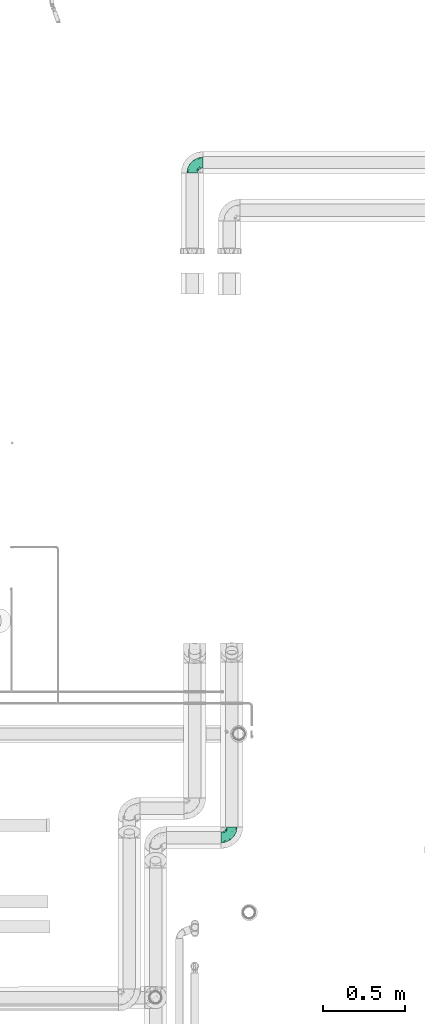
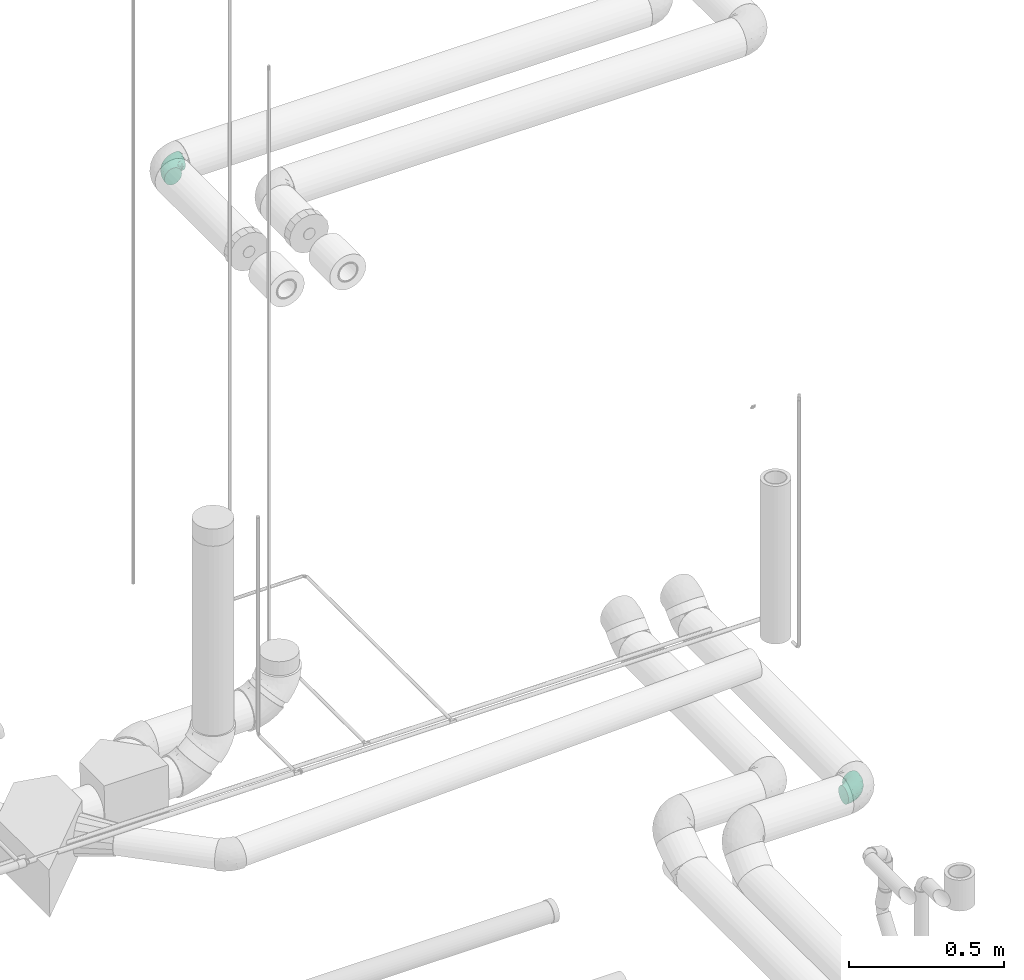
# One storey, part 138 of 156: 2 flow fittings.
"""IFC2X3 building model written with IfcOpenShell, lengths in millimetres."""

import ifcopenshell
import ifcopenshell.guid

model = None  # the IFC model being written
_history = None  # IfcOwnerHistory: only IFC2X3 demands one
_inside = {}  # id of a spatial element -> (the spatial element, [elements in it])
_under = {}  # id of a project, library or spatial element -> (it, [spatial elements below it])
_declared = {}  # id of a project -> (the project, [libraries it declares])
_typed = {}  # id of a type object -> (the type object, [elements of that type])
_made_of = {}  # id of a material, layer set ... -> (it, [elements and type objects made of it])


def new_model(schema):
    """Start an empty IFC model of exactly this schema.

    Asked for "IFC4X3", IfcOpenShell would pick the latest addendum, in which some entities
    have other attributes; the version numbers below select the first issue.
    IFC2X3 requires an IfcOwnerHistory on every rooted entity: one is made here for all.
    """
    global model, _history
    if schema == "IFC4X3":
        model = ifcopenshell.file(schema_version=(4, 3, 0, 0))
    else:
        model = ifcopenshell.file(schema=schema)
    _inside.clear()
    _under.clear()
    _declared.clear()
    _typed.clear()
    _made_of.clear()
    _history = None
    if model.schema == "IFC2X3":
        org = make("IfcOrganization", Name="unknown")
        user = make(
            "IfcPersonAndOrganization",
            ThePerson=make("IfcPerson", FamilyName="unknown"),
            TheOrganization=org,
        )
        app = make(
            "IfcApplication",
            ApplicationDeveloper=org,
            Version="unknown",
            ApplicationFullName="unknown",
            ApplicationIdentifier="unknown",
        )
        _history = make(
            "IfcOwnerHistory",
            OwningUser=user,
            OwningApplication=app,
            ChangeAction="ADDED",
            CreationDate=0,
        )
    return model


def make(cls, **values):
    """One entity of the class cls with the attributes given. An attribute that is None is left unset."""
    return model.create_entity(
        cls, **{name: value for name, value in values.items() if value is not None}
    )


def entity(cls, *values):
    """Any entity or typed value of the class cls, its attributes in the order of the schema. None: left unset."""
    e = model.create_entity(cls)
    for i, value in enumerate(values):
        if value is not None:
            e[i] = value
    return e


def rooted(cls, **values):
    """An entity with a GlobalId (a new one), such as an element, a storey or a relation."""
    return make(cls, GlobalId=ifcopenshell.guid.new(), OwnerHistory=_history, **values)


def si_unit(unit_type, name, prefix=None):
    """IfcSIUnit, for example si_unit("LENGTHUNIT", "METRE", prefix="MILLI")."""
    return make("IfcSIUnit", UnitType=unit_type, Prefix=prefix, Name=name)


def converted_unit(unit_type, name, factor, base, dimensions=None, offset=None):
    """IfcConversionBasedUnit, such as the inch: factor (a typed value) times the base unit."""
    return make(
        "IfcConversionBasedUnit"
        if offset is None
        else "IfcConversionBasedUnitWithOffset",
        ConversionOffset=offset,
        Dimensions=None
        if dimensions is None
        else entity("IfcDimensionalExponents", *dimensions),
        UnitType=unit_type,
        Name=name,
        ConversionFactor=make(
            "IfcMeasureWithUnit", ValueComponent=factor, UnitComponent=base
        ),
    )


def derived_unit(unit_type, elements):
    """IfcDerivedUnit: a product of units, each with its exponent."""
    return make(
        "IfcDerivedUnit",
        Elements=[
            make("IfcDerivedUnitElement", Unit=unit, Exponent=power)
            for unit, power in elements
        ],
        UnitType=unit_type,
    )


def assignment(units):
    """IfcUnitAssignment: the units of a project."""
    return None if units is None else make("IfcUnitAssignment", Units=units)


def point(xyz):
    """IfcCartesianPoint."""
    return None if xyz is None else make("IfcCartesianPoint", Coordinates=xyz)


def direction(xyz):
    """IfcDirection."""
    return None if xyz is None else make("IfcDirection", DirectionRatios=xyz)


def frame(location, z_axis=None, x_axis=None):
    """IfcAxis2Placement3D, a coordinate frame: its origin and axes. An axis left out is left unset."""
    return make(
        "IfcAxis2Placement3D",
        Location=point(location),
        Axis=direction(z_axis),
        RefDirection=direction(x_axis),
    )


def origin_with_axes():
    """The frame at (0, 0, 0) with the z axis (0, 0, 1) and the x axis (1, 0, 0) written out."""
    return frame((0.0, 0.0, 0.0), z_axis=(0.0, 0.0, 1.0), x_axis=(1.0, 0.0, 0.0))


def place(relative_to, where):
    """IfcLocalPlacement: puts the frame where relative to a parent placement (None: the world)."""
    return make(
        "IfcLocalPlacement", PlacementRelTo=relative_to, RelativePlacement=where
    )


def context(
    kind, dimensions, precision=None, world=None, true_north=None, identifier=None
):
    """IfcGeometricRepresentationContext, for example the 3D "Model" context."""
    return make(
        "IfcGeometricRepresentationContext",
        ContextIdentifier=identifier,
        ContextType=kind,
        CoordinateSpaceDimension=dimensions,
        Precision=precision,
        WorldCoordinateSystem=world,
        TrueNorth=true_north,
    )


def subcontext(parent, identifier, kind, view, scale=None):
    """IfcGeometricRepresentationSubContext, for example "Body" below "Model"."""
    return make(
        "IfcGeometricRepresentationSubContext",
        ContextIdentifier=identifier,
        ContextType=kind,
        ParentContext=parent,
        TargetScale=scale,
        TargetView=view,
    )


def project(units=None, contexts=None):
    """IfcProject with its units and contexts."""
    return rooted(
        "IfcProject",
        Name="project",
        RepresentationContexts=contexts,
        UnitsInContext=assignment(units),
    )


def spatial(cls, under=None, at=None, **own):
    """A site, building, storey or space (cls), placed at a placement, below another one or the project."""
    s = rooted(cls, ObjectPlacement=at, **own)
    if under is not None:
        _under.setdefault(under.id(), (under, []))[1].append(s)
    return s


def faces_of(points, faces, orient=None, outer=None):
    """IfcFace entities. A face is a list of loops; a loop is a list of indices into points, from 0.

    orient and outer hold one flag for each loop. By default every Orientation is true, the
    first loop of a face is its IfcFaceOuterBound and the others are IfcFaceBound.
    """
    made = []
    for i, loops in enumerate(faces):
        bounds = []
        for j, loop in enumerate(loops):
            is_outer = j == 0 if outer is None else outer[i][j]
            bounds.append(
                make(
                    "IfcFaceOuterBound" if is_outer else "IfcFaceBound",
                    Bound=make("IfcPolyLoop", Polygon=[points[k] for k in loop]),
                    Orientation=True if orient is None else orient[i][j],
                )
            )
        made.append(make("IfcFace", Bounds=bounds))
    return made


def open_shell(faces, orient=None, outer=None):
    """The faces of one IfcOpenShell. surface_model builds it on its shared points."""
    return ("IfcOpenShell", faces, orient, outer)


def surface_model(cls, points, shells):
    """IfcFaceBasedSurfaceModel or IfcShellBasedSurfaceModel (cls): surfaces that need not close."""
    shared = [point(p) for p in points]
    made = [make(c, CfsFaces=faces_of(shared, fs, o, b)) for c, fs, o, b in shells]
    if cls == "IfcFaceBasedSurfaceModel":
        return make(cls, FbsmFaces=made)
    return make(cls, SbsmBoundary=made)


def shape(context_of_items, identifier, shape_type, items):
    """IfcShapeRepresentation: the items that make up one representation, for example the "Body"."""
    return make(
        "IfcShapeRepresentation",
        ContextOfItems=context_of_items,
        RepresentationIdentifier=identifier,
        RepresentationType=shape_type,
        Items=items,
    )


def source(mapping_origin, context_of_items, identifier, shape_type, items):
    """IfcRepresentationMap: a shape defined once, which mapped items show again and again."""
    return make(
        "IfcRepresentationMap",
        MappingOrigin=mapping_origin,
        MappedRepresentation=shape(context_of_items, identifier, shape_type, items),
    )


def transform(
    local_origin,
    x_axis=None,
    y_axis=None,
    z_axis=None,
    scale=None,
    scale2=None,
    scale3=None,
    uniform=True,
):
    """IfcCartesianTransformationOperator3D, or its non-uniform kind. x_axis, y_axis, z_axis: its Axis1, 2, 3."""
    if uniform:
        return make(
            "IfcCartesianTransformationOperator3D",
            Axis1=direction(x_axis),
            Axis2=direction(y_axis),
            LocalOrigin=point(local_origin),
            Scale=scale,
            Axis3=direction(z_axis),
        )
    return make(
        "IfcCartesianTransformationOperator3DnonUniform",
        Axis1=direction(x_axis),
        Axis2=direction(y_axis),
        LocalOrigin=point(local_origin),
        Scale=scale,
        Axis3=direction(z_axis),
        Scale2=scale2,
        Scale3=scale3,
    )


def mapped(mapping_source, mapping_target):
    """IfcMappedItem: shows the shape of a source again, moved by a transform."""
    return make(
        "IfcMappedItem", MappingSource=mapping_source, MappingTarget=mapping_target
    )


def made_of(thing, what):
    """Note that an element or type object is made of a material, layer set ...; save() writes the relation."""
    if what is not None:
        _made_of.setdefault(what.id(), (what, []))[1].append(thing)
    return thing


def type_object(cls, material=None, **own):
    """A type object (cls), such as IfcWallType, which elements share."""
    return made_of(rooted(cls, **own), material)


def element(
    cls,
    number,
    at=None,
    inside=None,
    cuts=None,
    type_object=None,
    material=None,
    context=None,
    identifier="Body",
    shape_type=None,
    held_by="IfcProductDefinitionShape",
    body=None,
    shapes=None,
    **own,
):
    """One element of the class cls, such as IfcWall. Its Tag is "e" and its number.

    at: its placement. inside: the storey or other place that contains it. cuts: it is an
    opening in that element (IfcRelVoidsElement). A single representation is given by context,
    identifier, shape_type and body (its items); several are given by shapes. held_by: the class
    of the entity that holds the representations. save() writes the other relations.
    """
    e = rooted(cls, Tag="e%d" % number, ObjectPlacement=at, **own)
    if body is not None:
        shapes = [shape(context, identifier, shape_type, body)]
    if shapes is not None:
        e.Representation = make(held_by, Representations=shapes)
    if inside is not None:
        _inside.setdefault(inside.id(), (inside, []))[1].append(e)
    if cuts is not None:
        rooted(
            "IfcRelVoidsElement", RelatingBuildingElement=cuts, RelatedOpeningElement=e
        )
    if type_object is not None:
        _typed.setdefault(type_object.id(), (type_object, []))[1].append(e)
    return made_of(e, material)


def aggregate(whole, parts):
    """IfcRelAggregates: a whole, such as a stair, and the parts it consists of."""
    return rooted("IfcRelAggregates", RelatingObject=whole, RelatedObjects=parts)


def save(model, path):
    """Write the relations noted so far, then the file.

    IfcRelAggregates (storeys below a building ...), IfcRelContainedInSpatialStructure (elements
    in a storey), IfcRelDefinesByType, IfcRelAssociatesMaterial and IfcRelDeclares: one each for
    every whole, place, type object, material and project.
    """
    for whole, parts in _under.values():
        aggregate(whole, parts)
    for where, things in _inside.values():
        rooted(
            "IfcRelContainedInSpatialStructure",
            RelatedElements=things,
            RelatingStructure=where,
        )
    for kind, things in _typed.values():
        rooted("IfcRelDefinesByType", RelatedObjects=things, RelatingType=kind)
    for what, things in _made_of.values():
        rooted("IfcRelAssociatesMaterial", RelatedObjects=things, RelatingMaterial=what)
    for by, libraries in _declared.values():
        rooted("IfcRelDeclares", RelatingContext=by, RelatedDefinitions=libraries)
    model.write(path)


model = new_model("IFC2X3")

# Units and contexts
model_context = context("Model", 3, precision=0.01, world=frame((0.0, 4.29681676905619e-09, 0.0)), true_north=direction((4.01073788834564e-13, 1.0)))
plan_context = context("Plan", 3, precision=0.01, world=frame((0.0, 4.29681676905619e-09, 0.0)), true_north=direction((4.01073788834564e-13, 1.0)))
body_context = subcontext(model_context, "Body", "Model", "MODEL_VIEW")
ifc_project = project(units=[converted_unit("PLANEANGLEUNIT", "DEGREE", entity("IfcPositiveLengthMeasure", 0.0174532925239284), si_unit("PLANEANGLEUNIT", "RADIAN"), dimensions=[0, 0, 0, 0, 0, 0, 0]), si_unit("AREAUNIT", "SQUARE_METRE"), si_unit("LENGTHUNIT", "METRE", prefix="MILLI"), si_unit("MASSUNIT", "GRAM", prefix="KILO"), si_unit("POWERUNIT", "WATT"), si_unit("PRESSUREUNIT", "PASCAL", prefix="KILO"), si_unit("FORCEUNIT", "NEWTON", prefix="KILO"), si_unit("ELECTRICVOLTAGEUNIT", "VOLT"), si_unit("ELECTRICCURRENTUNIT", "AMPERE"), si_unit("THERMODYNAMICTEMPERATUREUNIT", "DEGREE_CELSIUS"), si_unit("TIMEUNIT", "SECOND"), si_unit("VOLUMEUNIT", "CUBIC_METRE"), derived_unit("LINEARVELOCITYUNIT", [(si_unit("LENGTHUNIT", "METRE"), 1), (si_unit("TIMEUNIT", "SECOND"), -1)]), derived_unit("VOLUMETRICFLOWRATEUNIT", [(si_unit("VOLUMEUNIT", "CUBIC_METRE"), 1), (si_unit("TIMEUNIT", "SECOND"), -1)]), derived_unit("THERMALTRANSMITTANCEUNIT", [(si_unit("POWERUNIT", "WATT"), 1), (si_unit("THERMODYNAMICTEMPERATUREUNIT", "KELVIN"), -1), (si_unit("AREAUNIT", "SQUARE_METRE"), -1)]), derived_unit("SOUNDPRESSUREUNIT", [(si_unit("PRESSUREUNIT", "PASCAL"), 1)])], contexts=[model_context, plan_context])

# Site, building, storey
site_placement = place(None, frame((0.0, -4.29681676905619e-09, 0.0), z_axis=(0.0, 0.0, 1.0), x_axis=(1.0, 0.0, 0.0)))
site = spatial("IfcSite", under=ifc_project, at=site_placement, CompositionType="ELEMENT")
building_placement = place(site_placement, frame((0.0, 4.29681676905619e-09, 0.0), z_axis=(0.0, 0.0, 1.0), x_axis=(1.0, 0.0, 0.0)))
building = spatial("IfcBuilding", under=site, at=building_placement, Name="mc-building", CompositionType="ELEMENT")
storey_placement = place(building_placement, frame((0.0, 0.0, 205200.0), z_axis=(0.0, 0.0, 1.0), x_axis=(1.0, 0.0, 0.0)))
storey = spatial("IfcBuildingStorey", under=building, at=storey_placement, Name="Nivå D + 1,2 m", CompositionType="ELEMENT", Elevation=205200.0)

# Flow fittings
pipe_fitting_type = type_object("IfcPipeFittingType", Name="magi_pipe_elbow_short_001", PredefinedType="BEND")
shared_shape_1 = source(origin_with_axes(), body_context, "Body", "SurfaceModel", [
    surface_model("IfcShellBasedSurfaceModel", [(-64.99236, 16.25, -28.14582), (-64.99236, 8.41162, -31.39259), (-64.99236, 0.0, -32.5), (-64.99236, -22.98097, -22.98097), (-64.99236, 31.39259, -8.41162), (-64.99236, 28.14582, -16.25), (-64.99236, 22.98097, -22.98097), (-64.99236, -32.5, 0.0), (-64.99236, -31.39259, 8.41162), (-64.99236, -16.25, -28.14582), (-64.99236, -8.41162, -31.39259), (-64.99236, -31.39259, -8.41162), (-64.99236, -28.14582, -16.25), (-64.99236, -22.98097, 22.98097), (-64.99236, 31.39259, 8.41162), (-64.99236, 28.14582, 16.25), (-64.99236, 16.25, 28.14582), (-64.99236, 22.98097, 22.98097), (-64.99236, 0.0, 32.5), (-64.99236, 8.41162, 31.39259), (-64.99236, -28.14582, 16.25), (-64.99236, -8.41162, 31.39259), (-64.99236, -16.25, 28.14582), (-64.99236, 32.5, 0.0), (0.00764, 64.99235, -32.5), (-8.40398, 64.99334, -31.39259), (-16.24236, 64.99427, -28.14582), (22.98861, 64.98965, -22.98097), (-22.97333, 64.99506, -22.98097), (-28.13818, 64.99566, -16.25), (-31.38495, 64.99605, -8.41162), (32.50764, 64.98853, 0.0), (8.41926, 64.99137, -31.39259), (16.25764, 64.99045, -28.14582), (31.40023, 64.98867, -8.41162), (28.15347, 64.98905, -16.25), (-31.38495, 64.99605, 8.41162), (22.98861, 64.98965, 22.98097), (-16.24236, 64.99427, 28.14582), (-28.13818, 64.99566, 16.25), (-22.97333, 64.99506, 22.98097), (-8.40398, 64.99334, 31.39259), (0.00764, 64.99235, 32.5), (31.40023, 64.98867, 8.41162), (28.15347, 64.98905, 16.25), (16.25764, 64.99045, 28.14582), (8.41926, 64.99137, 31.39259), (-32.49236, 64.99618, 0.0), (-43.89955, -28.50355, 10.21446), (-47.6585, -25.24703, 18.24341), (-34.86538, -27.72872, 0.0), (-49.0083, -29.96857, 0.0), (-8.31843, -11.22716, 12.53135), (-2.25959, -8.68638, 6.834), (1.88186, -1.88208, 13.46383), (-49.64326, -4.30538, 31.94422), (-45.50388, 4.98178, 32.44459), (11.10666, 7.93208, 12.2081), (19.84846, 26.43538, 16.1656), (7.61465, 11.7849, 20.7423), (-32.35149, -0.29224, 31.50086), (-47.53409, -12.26208, 29.22887), (-25.23377, -7.6766, 27.1652), (-41.68248, -18.56637, 24.14343), (-29.11432, -24.9108, 6.68577), (-21.27619, -20.80529, 0.0), (-11.7858, -7.61327, 20.7423), (-5.80189, 5.80257, 26.57213), (-31.76287, 51.868, 14.1255), (-27.14349, 50.59483, 21.35127), (-12.12509, 56.0552, 30.44198), (-4.44859, 48.60892, 32.42016), (-50.09163, 12.74643, 30.70085), (-8.47944, 21.76257, 31.91164), (-16.14338, 5.96184, 30.34894), (-3.31499, 17.55572, 29.86712), (-56.22293, 19.6814, 26.48163), (-11.2914, 31.957, 32.4416), (-24.06856, 24.07139, 31.71014), (-19.34861, 14.20045, 32.33273), (-51.37697, 34.61598, 7.14514), (-51.88042, 31.76371, 14.12334), (-40.34691, 40.35165, 12.14859), (-50.79813, 27.09264, 21.32854), (18.57127, 41.6803, 24.14343), (-33.69894, 43.07982, 18.3952), (12.26767, 47.53264, 29.22887), (25.25263, 47.65553, 18.24341), (28.50871, 43.8962, 10.21446), (-7.687, -13.88185, 0.0), (-15.77703, -17.8791, 8.42009), (4.31122, 49.64276, 31.94422), (-35.7076, 13.92038, 31.91837), (-31.8861, 7.96355, 32.48616), (20.80779, 21.27375, 0.0), (24.91422, 29.11139, 6.68577), (17.88096, 15.77493, 8.42009), (29.97433, 49.00478, 0.0), (-34.54668, 22.05033, 30.06046), (-26.43772, -19.84535, 16.1656), (-23.55724, 42.00226, 27.3152), (-19.8488, 54.49231, 26.61652), (-34.20409, 52.42659, 6.97231), (-40.72649, 42.62491, 5.71948), (14.97648, 26.17148, 22.02693), (7.67956, 25.23287, 27.1652), (-36.84781, 48.74779, 0.0), (-30.08241, 34.31724, 26.70502), (-44.74852, 22.06099, 27.36809), (-0.49151, 0.49157, 19.19861), (-18.5415, 33.64021, 31.24212), (-25.88792, 31.46182, 29.57109), (-14.05015, 44.03414, 30.95158), (-34.25375, 36.29281, 23.02093), (-41.7348, 34.92131, 18.12224), (0.29605, 32.35145, 31.50086), (-26.05163, -14.24497, 22.66178), (8.8662, 2.35566, 6.48067), (27.73282, 34.86212, 0.0), (13.88276, 7.68537, 0.0), (-48.74346, 36.85354, 0.0), (3.09788, -3.09824, 0.0), (-47.9193, 27.98928, -21.64754), (-51.85171, 31.77305, -14.12718), (-26.54684, -8.20436, -27.26653), (-28.21584, -0.40658, -30.91134), (-13.05633, -0.54632, -26.63159), (-51.44351, 4.10941, -32.3942), (-47.40518, -29.09488, -10.59543), (-40.82854, -24.10138, -17.60337), (-31.00415, -24.37146, -10.90407), (-47.27743, 13.26675, -30.81873), (-35.79823, 7.68242, -32.49297), (-27.98364, 47.92259, -21.64754), (-52.60833, 34.10171, -7.1118), (-20.39289, 51.01724, -26.88537), (-13.26119, 47.27899, -30.81873), (-41.34819, 41.35305, -7.7594), (19.4222, 47.0094, -24.5381), (11.22092, 41.14985, -28.90486), (12.81889, 54.88047, -29.57876), (-6.33074, -11.43746, -8.55858), (-6.41511, -8.42749, -14.80847), (3.49494, -2.768, -8.5749), (-18.9594, 17.57163, -32.48157), (-30.80322, 19.22998, -31.53263), (-51.01485, 20.39889, -26.88537), (-54.7096, -25.87179, -18.8827), (-31.613, 36.91699, -24.47878), (-30.03154, 30.03507, -28.53578), (-39.7181, 27.45244, -25.81944), (2.84502, -0.59397, -13.92955), (-47.01169, -19.41667, -24.5381), (24.10618, 40.8257, -17.60337), (29.10045, 47.40176, -10.59543), (24.37511, 31.00129, -10.90407), (-54.88197, -12.81243, -29.57876), (4.10339, 47.87508, -31.9058), (-20.54826, -15.82441, -17.72956), (-24.26015, -13.258, -22.73561), (-11.77797, -8.036, -20.31778), (-35.46225, -14.84085, -25.5178), (-41.15118, -11.21609, -28.90486), (-47.87556, -4.09776, -31.9058), (-24.349, 39.97958, -27.53011), (-34.09552, 52.61234, -7.1118), (-4.10336, 51.44399, -32.3942), (-11.46945, 11.4708, -30.68906), (0.4099, 28.21579, -30.91134), (1.37106, 15.26107, -27.10384), (-31.76696, 51.85545, -14.12718), (-39.0276, 39.03218, -16.01867), (25.87823, 54.70656, -18.8827), (18.83805, 26.10245, -17.45454), (10.47978, 12.31452, -18.02661), (13.26085, 24.25859, -22.73561), (6.72086, 27.73878, -28.39212), (-7.67821, 35.79913, -32.49297), (-39.5058, 20.91562, -29.29241), (-19.37525, 31.62512, -31.37489), (-0.30464, 0.30467, -18.8323), (-15.04965, -18.17285, -5.59118), (16.66709, 16.13802, -12.10451), (18.17462, 15.04752, -5.59118), (3.83323, 9.90276, -22.79776), (-16.13998, -16.66519, -12.10451)], [open_shell([[[0, 1, 2]], [[0, 2, 3]], [[4, 5, 6]], [[6, 0, 7]], [[6, 7, 8]], [[9, 3, 10]], [[3, 2, 10]], [[11, 7, 12]], [[3, 12, 7]], [[3, 7, 0]], [[8, 4, 6]], [[13, 14, 4]], [[15, 14, 16]], [[13, 16, 14]], [[17, 15, 16]], [[16, 18, 19]], [[20, 13, 8]], [[8, 13, 4]], [[21, 18, 22]], [[16, 13, 22]], [[16, 22, 18]], [[23, 4, 14]], [[24, 25, 26]], [[27, 24, 26]], [[28, 29, 30]], [[27, 26, 28]], [[31, 28, 30]], [[32, 27, 33]], [[32, 24, 27]], [[27, 34, 35]], [[34, 27, 31]], [[28, 31, 27]], [[30, 36, 31]], [[37, 31, 36]], [[38, 36, 39]], [[36, 38, 37]], [[38, 39, 40]], [[41, 42, 38]], [[43, 37, 44]], [[31, 37, 43]], [[45, 42, 46]], [[42, 45, 37]], [[38, 42, 37]], [[30, 47, 36]], [[48, 49, 20]], [[50, 48, 51]], [[52, 53, 54]], [[8, 48, 20]], [[8, 51, 48]], [[18, 55, 56]], [[20, 49, 13]], [[57, 58, 59]], [[60, 61, 62]], [[63, 22, 13]], [[63, 61, 22]], [[64, 50, 65]], [[62, 66, 67]], [[39, 68, 69]], [[41, 70, 71]], [[19, 72, 16]], [[73, 74, 75]], [[16, 76, 17]], [[21, 55, 18]], [[77, 78, 79]], [[80, 81, 82]], [[15, 83, 81]], [[84, 37, 45]], [[23, 14, 80]], [[14, 15, 81]], [[68, 85, 69]], [[83, 15, 17]], [[18, 56, 19]], [[45, 86, 84]], [[17, 76, 83]], [[87, 58, 88]], [[39, 36, 68]], [[89, 90, 65]], [[42, 91, 46]], [[65, 90, 64]], [[42, 41, 71]], [[92, 93, 79]], [[88, 43, 44]], [[44, 37, 87]], [[87, 88, 44]], [[94, 95, 96]], [[88, 97, 43]], [[98, 72, 92]], [[49, 99, 63]], [[69, 100, 101]], [[82, 102, 103]], [[104, 105, 59]], [[106, 102, 47]], [[98, 107, 108]], [[102, 82, 68]], [[86, 45, 46]], [[69, 40, 39]], [[109, 54, 57]], [[110, 100, 111]], [[22, 61, 21]], [[101, 38, 40]], [[70, 41, 38]], [[112, 77, 71]], [[84, 86, 105]], [[96, 95, 58]], [[100, 69, 113]], [[72, 19, 56]], [[108, 113, 83]], [[81, 114, 82]], [[112, 110, 77]], [[91, 71, 115]], [[62, 61, 63]], [[55, 61, 60]], [[116, 99, 66]], [[74, 62, 67]], [[91, 86, 46]], [[105, 86, 115]], [[75, 105, 115]], [[109, 67, 66]], [[59, 105, 67]], [[48, 64, 99]], [[99, 49, 48]], [[63, 13, 49]], [[37, 84, 87]], [[58, 87, 84]], [[92, 72, 56]], [[76, 72, 108]], [[102, 68, 36]], [[82, 114, 85]], [[98, 111, 107]], [[112, 70, 101]], [[114, 83, 113]], [[82, 103, 80]], [[92, 79, 78]], [[115, 71, 77]], [[74, 79, 60]], [[77, 79, 73]], [[71, 91, 42]], [[86, 91, 115]], [[61, 55, 21]], [[56, 55, 60]], [[57, 54, 117]], [[104, 59, 58]], [[116, 66, 62]], [[52, 99, 90]], [[8, 7, 51]], [[97, 88, 118]], [[97, 31, 43]], [[53, 90, 89]], [[90, 53, 52]], [[94, 96, 119]], [[88, 95, 118]], [[117, 54, 53]], [[92, 56, 93]], [[98, 92, 78]], [[111, 98, 78]], [[72, 98, 108]], [[110, 111, 78]], [[107, 111, 100]], [[47, 102, 36]], [[102, 106, 103]], [[106, 120, 103]], [[103, 120, 80]], [[23, 80, 120]], [[14, 81, 80]], [[56, 60, 93]], [[60, 79, 93]], [[117, 121, 119]], [[121, 117, 53]], [[53, 89, 121]], [[119, 96, 117]], [[117, 96, 57]], [[77, 110, 78]], [[100, 110, 112]], [[83, 114, 81]], [[85, 114, 113]], [[69, 85, 113]], [[82, 85, 68]], [[109, 52, 54]], [[99, 52, 66]], [[69, 101, 40]], [[112, 101, 100]], [[100, 113, 107]], [[108, 107, 113]], [[62, 74, 60]], [[75, 74, 67]], [[105, 75, 67]], [[73, 75, 115]], [[77, 73, 115]], [[74, 73, 79]], [[99, 64, 90]], [[50, 64, 48]], [[118, 95, 94]], [[58, 95, 88]], [[58, 57, 96]], [[109, 57, 59]], [[72, 76, 16]], [[83, 76, 108]], [[101, 70, 38]], [[71, 70, 112]], [[58, 84, 104]], [[105, 104, 84]], [[67, 109, 59]], [[52, 109, 66]], [[62, 63, 116]], [[99, 116, 63]], [[122, 5, 123]], [[124, 125, 126]], [[2, 1, 127]], [[128, 129, 130]], [[127, 131, 132]], [[29, 28, 133]], [[120, 134, 23]], [[135, 26, 136]], [[123, 134, 137]], [[138, 139, 140]], [[122, 6, 5]], [[141, 142, 143]], [[144, 132, 145]], [[131, 0, 146]], [[128, 12, 147]], [[148, 149, 150]], [[128, 51, 11]], [[142, 151, 143]], [[152, 3, 9]], [[153, 154, 155]], [[156, 152, 9]], [[32, 157, 24]], [[158, 159, 160]], [[147, 12, 3]], [[129, 152, 161]], [[156, 9, 10]], [[162, 163, 125]], [[154, 35, 34]], [[120, 106, 137]], [[149, 148, 164]], [[47, 30, 165]], [[163, 10, 2]], [[5, 4, 123]], [[25, 166, 136]], [[167, 168, 169]], [[170, 133, 171]], [[25, 24, 166]], [[33, 27, 138]], [[157, 32, 140]], [[30, 29, 170]], [[27, 35, 172]], [[26, 135, 28]], [[132, 131, 145]], [[32, 33, 140]], [[173, 174, 175]], [[169, 168, 176]], [[25, 136, 26]], [[175, 138, 173]], [[168, 177, 157]], [[163, 162, 156]], [[153, 172, 154]], [[12, 128, 11]], [[154, 97, 118]], [[131, 178, 145]], [[0, 6, 146]], [[175, 139, 138]], [[155, 118, 94]], [[131, 1, 0]], [[146, 178, 131]], [[170, 137, 165]], [[149, 179, 145]], [[171, 133, 148]], [[160, 180, 142]], [[65, 181, 89]], [[170, 165, 30]], [[137, 171, 123]], [[172, 138, 27]], [[138, 153, 173]], [[168, 157, 139]], [[166, 157, 177]], [[176, 175, 169]], [[168, 167, 144]], [[154, 34, 97]], [[155, 182, 173]], [[162, 124, 161]], [[147, 152, 129]], [[127, 163, 2]], [[132, 144, 125]], [[132, 125, 163]], [[125, 167, 126]], [[129, 158, 130]], [[34, 31, 97]], [[143, 182, 183]], [[169, 126, 167]], [[6, 122, 146]], [[178, 150, 149]], [[136, 179, 164]], [[133, 28, 135]], [[123, 4, 134]], [[122, 123, 171]], [[133, 170, 29]], [[137, 170, 171]], [[184, 175, 174]], [[180, 160, 126]], [[126, 169, 184]], [[126, 159, 124]], [[51, 128, 50]], [[51, 7, 11]], [[131, 127, 1]], [[163, 127, 132]], [[157, 166, 24]], [[136, 166, 177]], [[164, 179, 149]], [[144, 167, 125]], [[179, 144, 145]], [[168, 144, 177]], [[136, 177, 179]], [[144, 179, 177]], [[141, 121, 89]], [[89, 181, 141]], [[154, 118, 155]], [[183, 155, 94]], [[143, 183, 119]], [[119, 183, 94]], [[155, 183, 182]], [[181, 130, 185]], [[50, 128, 130]], [[130, 181, 65]], [[50, 130, 65]], [[141, 181, 185]], [[142, 141, 185]], [[143, 121, 141]], [[158, 160, 142]], [[142, 180, 151]], [[158, 142, 185]], [[126, 160, 159]], [[130, 158, 185]], [[129, 159, 158]], [[23, 134, 4]], [[120, 137, 134]], [[137, 106, 165]], [[47, 165, 106]], [[174, 151, 180]], [[182, 143, 151]], [[150, 146, 122]], [[149, 145, 178]], [[146, 150, 178]], [[122, 171, 148]], [[148, 150, 122]], [[164, 133, 135]], [[133, 164, 148]], [[164, 135, 136]], [[138, 140, 33]], [[157, 140, 139]], [[154, 172, 35]], [[138, 172, 153]], [[163, 156, 10]], [[152, 156, 162]], [[152, 147, 3]], [[128, 147, 129]], [[155, 173, 153]], [[174, 173, 182]], [[151, 174, 182]], [[174, 180, 184]], [[126, 184, 180]], [[175, 184, 169]], [[168, 139, 176]], [[175, 176, 139]], [[161, 124, 159]], [[125, 124, 162]], [[129, 161, 159]], [[162, 161, 152]], [[143, 119, 121]]])]),
])
flow_fitting_1_placement = place(storey_placement, frame((330320.24229, 461498.85076, 4172.95997999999), z_axis=(0.0, 0.0, 1.0), x_axis=(1.0, 0.0, 0.0)))
element("IfcFlowFitting", 1, at=flow_fitting_1_placement, inside=storey, type_object=pipe_fitting_type, Name="magi_pipe_elbow_short_001", context=body_context, shape_type="MappedRepresentation", body=[
    mapped(shared_shape_1, transform((0.0, 0.0, 0.0), scale=1.0)),
])
shared_shape_2 = source(origin_with_axes(), body_context, "Body", "SurfaceModel", [
    surface_model("IfcShellBasedSurfaceModel", [(-64.99978, 16.25, -28.14582), (-64.99978, 8.41162, -31.39259), (-64.99978, 0.0, -32.5), (-64.99978, -22.98097, -22.98097), (-64.99978, 31.39259, -8.41162), (-64.99978, 28.14582, -16.25), (-64.99978, 22.98097, -22.98097), (-64.99978, -32.5, 0.0), (-64.99978, -31.39259, 8.41162), (-64.99978, -16.25, -28.14582), (-64.99978, -8.41162, -31.39259), (-64.99978, -31.39259, -8.41162), (-64.99978, -28.14582, -16.25), (-64.99978, -22.98097, 22.98097), (-64.99978, 31.39259, 8.41162), (-64.99978, 28.14582, 16.25), (-64.99978, 16.25, 28.14582), (-64.99978, 22.98097, 22.98097), (-64.99978, 0.0, 32.5), (-64.99978, 8.41162, 31.39259), (-64.99978, -28.14582, 16.25), (-64.99978, -8.41162, 31.39259), (-64.99978, -16.25, 28.14582), (-64.99978, 32.5, 0.0), (0.00022, 64.99978, -32.5), (-8.4114, 64.99981, -31.39259), (-16.24978, 64.99984, -28.14582), (-22.98075, 64.99986, -22.98097), (-28.14561, 64.99988, -16.25), (-31.39237, 64.99989, -8.41162), (32.50022, 64.99968, 0.0), (31.39281, 64.99968, 8.41162), (8.41184, 64.99975, -31.39259), (22.98119, 64.99971, -22.98097), (16.25022, 64.99973, -28.14582), (31.39281, 64.99968, -8.41162), (28.14604, 64.99969, -16.25), (-31.39237, 64.99989, 8.41162), (-22.98075, 64.99986, 22.98097), (-28.14561, 64.99988, 16.25), (-16.24978, 64.99984, 28.14582), (22.98119, 64.99971, 22.98097), (-8.4114, 64.99981, 31.39259), (0.00022, 64.99978, 32.5), (28.14604, 64.99969, 16.25), (16.25022, 64.99973, 28.14582), (8.41184, 64.99975, 31.39259), (-32.49978, 64.99989, 0.0), (-43.90681, -28.50357, 10.2143), (-47.66578, -25.24708, 18.24329), (-34.87069, -27.72803, 0.0), (-49.01577, -29.96839, 0.0), (-8.32269, -11.22426, 12.53241), (-2.26201, -8.68189, 6.83484), (1.87747, -1.87748, 13.46626), (-49.64942, -4.30536, 31.94417), (-45.51036, 4.98181, 32.4446), (11.10244, 7.9365, 12.20831), (19.84612, 26.44643, 16.1655), (7.61151, 11.79162, 20.74292), (-32.35664, -0.29167, 31.50073), (-47.54153, -12.26219, 29.22881), (-25.2412, -7.67712, 27.16491), (-41.69043, -18.5666, 24.14336), (-29.11963, -24.90984, 6.68626), (-21.28076, -20.80363, 0.0), (-11.79164, -7.61147, 20.74292), (-5.80533, 5.80535, 26.57152), (-31.76878, 51.87166, 14.12563), (-27.1493, 50.59869, 21.35141), (-12.13148, 56.0602, 30.44206), (-4.4541, 48.61523, 32.42017), (-50.09878, 12.74635, 30.7009), (-8.4833, 21.76751, 31.91167), (-16.14844, 5.96218, 30.34847), (-3.32002, 17.55877, 29.86711), (-56.2291, 19.68144, 26.48178), (-11.29515, 31.96037, 32.44169), (-24.07309, 24.07317, 31.71031), (-19.35205, 14.20218, 32.33259), (-51.38128, 34.61725, 7.14562), (-51.8877, 31.7637, 14.12347), (-40.35287, 40.35301, 12.14876), (-50.80491, 27.09273, 21.3287), (18.56674, 41.69037, 24.14336), (-33.7056, 43.08153, 18.39468), (12.26235, 47.54149, 29.22881), (25.24724, 47.6657, 18.24329), (28.50371, 43.90671, 10.2143), (-7.69083, -13.87923, 0.0), (-15.78135, -17.87712, 8.42052), (4.30553, 49.6494, 31.94417), (-35.71327, 13.92125, 31.91839), (-31.89091, 7.96388, 32.48613), (20.8037, 21.28069, 0.0), (24.90994, 29.11955, 6.68626), (17.87717, 15.78129, 8.42052), (29.96855, 49.01567, 0.0), (-34.55115, 22.05205, 30.06059), (-26.4465, -19.84603, 16.1655), (-23.56221, 42.00631, 27.31532), (-19.855, 54.49708, 26.61661), (-34.2102, 52.42982, 6.97228), (-40.73157, 42.62737, 5.71977), (14.97306, 26.17987, 22.02699), (7.6772, 25.24117, 27.1649), (-36.85399, 48.74994, 0.0), (-30.08659, 34.3204, 26.70527), (-44.75382, 22.06155, 27.36834), (-0.49658, 0.49658, 19.20117), (-18.54574, 33.64294, 31.24244), (-25.89219, 31.46477, 29.57131), (-14.05549, 44.03818, 30.9517), (-34.25822, 36.29556, 23.02121), (-41.74118, 34.92169, 18.12274), (0.29178, 32.35664, 31.50073), (-26.05865, -14.24555, 22.66107), (8.86278, 2.36024, 6.48022), (27.72815, 34.87059, 0.0), (13.87926, 7.69078, 0.0), (-48.74981, 36.85416, 0.0), (3.09422, -3.09423, 0.0), (-47.92582, 27.98948, -21.64776), (-51.85799, 31.77337, -14.12745), (-26.55079, -8.2021, -27.26678), (-28.22102, -0.40544, -30.91131), (-13.05803, -0.54392, -26.63041), (-51.44981, 4.10941, -32.39422), (-47.41232, -29.09488, -10.59528), (-40.83522, -24.10132, -17.60315), (-31.01107, -24.37143, -10.90366), (-47.28406, 13.26677, -30.81881), (-35.80365, 7.6829, -32.49298), (-27.98932, 47.92591, -21.64776), (-52.61498, 34.10209, -7.1115), (-20.39866, 51.02211, -26.88545), (-13.26661, 47.28411, -30.81881), (-41.35423, 41.35436, -7.75963), (19.41689, 47.01875, -24.53799), (11.21623, 41.15781, -28.90474), (12.81267, 54.88894, -29.57871), (-6.33188, -11.43247, -8.55905), (-6.42376, -8.42757, -14.80986), (3.49639, -2.7588, -8.57547), (-18.96424, 17.5736, -32.48155), (-30.8098, 19.23043, -31.53267), (-51.02204, 20.39883, -26.88545), (-54.71661, -25.87182, -18.8826), (-31.61798, 36.91933, -24.47909), (-30.03652, 30.03661, -28.53613), (-39.72323, 27.45379, -25.81956), (2.83449, -0.59725, -13.92945), (-47.01881, -19.41673, -24.53799), (24.10145, 40.83513, -17.60315), (29.09504, 47.41223, -10.59528), (24.37153, 31.01099, -10.90366), (-54.88899, -12.81249, -29.57871), (4.09801, 47.88268, -31.90577), (-20.5462, -15.81918, -17.72957), (-24.26603, -13.25758, -22.73527), (-11.78139, -8.03087, -20.32001), (-35.46877, -14.83971, -25.51839), (-41.15784, -11.21609, -28.90474), (-47.88269, -4.09785, -31.90577), (-24.35346, 39.9826, -27.5307), (-34.10192, 52.61509, -7.1115), (-4.10924, 51.44982, -32.39422), (-11.47317, 11.47321, -30.68874), (0.40553, 28.22101, -30.91131), (1.36827, 15.26644, -27.10352), (-31.7732, 51.8581, -14.12745), (-39.03334, 39.03346, -16.01918), (25.872, 54.71652, -18.8826), (18.83489, 26.11123, -17.45425), (10.47677, 12.32083, -18.0266), (13.25766, 24.26598, -22.73527), (6.71724, 27.74542, -28.39194), (-7.68278, 35.80368, -32.49298), (-39.5127, 20.91579, -29.29246), (-19.37887, 31.6268, -31.37545), (-0.30799, 0.30799, -18.83155), (-15.05371, -18.17091, -5.59076), (16.66512, 16.14677, -12.10402), (18.17096, 15.05365, -5.59076), (3.8289, 9.90604, -22.79738), (-16.14683, -16.66507, -12.10402)], [open_shell([[[0, 1, 2]], [[0, 2, 3]], [[4, 5, 6]], [[6, 0, 7]], [[6, 7, 8]], [[9, 3, 10]], [[3, 2, 10]], [[11, 7, 12]], [[3, 12, 7]], [[3, 7, 0]], [[8, 4, 6]], [[13, 14, 4]], [[15, 14, 16]], [[13, 16, 14]], [[17, 15, 16]], [[16, 18, 19]], [[20, 13, 8]], [[8, 13, 4]], [[21, 18, 22]], [[16, 13, 22]], [[16, 22, 18]], [[23, 4, 14]], [[24, 25, 26]], [[24, 26, 27]], [[27, 28, 29]], [[24, 27, 30]], [[31, 30, 27]], [[32, 33, 34]], [[32, 24, 33]], [[33, 35, 36]], [[24, 35, 33]], [[24, 30, 35]], [[27, 29, 37]], [[31, 27, 37]], [[38, 37, 39]], [[37, 40, 41]], [[40, 37, 38]], [[42, 43, 40]], [[31, 41, 44]], [[31, 37, 41]], [[45, 43, 46]], [[45, 41, 40]], [[43, 45, 40]], [[37, 29, 47]], [[48, 49, 20]], [[50, 48, 51]], [[52, 53, 54]], [[8, 48, 20]], [[8, 51, 48]], [[18, 55, 56]], [[20, 49, 13]], [[57, 58, 59]], [[60, 61, 62]], [[63, 22, 13]], [[63, 61, 22]], [[64, 50, 65]], [[62, 66, 67]], [[39, 68, 69]], [[42, 70, 71]], [[19, 72, 16]], [[73, 74, 75]], [[16, 76, 17]], [[21, 55, 18]], [[77, 78, 79]], [[80, 81, 82]], [[15, 83, 81]], [[84, 41, 45]], [[23, 14, 80]], [[14, 15, 81]], [[68, 85, 69]], [[83, 15, 17]], [[18, 56, 19]], [[45, 86, 84]], [[17, 76, 83]], [[87, 58, 88]], [[39, 37, 68]], [[89, 90, 65]], [[43, 91, 46]], [[65, 90, 64]], [[43, 42, 71]], [[92, 93, 79]], [[88, 31, 44]], [[44, 41, 87]], [[87, 88, 44]], [[94, 95, 96]], [[88, 97, 31]], [[98, 72, 92]], [[49, 99, 63]], [[69, 100, 101]], [[82, 102, 103]], [[104, 105, 59]], [[106, 102, 47]], [[98, 107, 108]], [[102, 82, 68]], [[86, 45, 46]], [[69, 38, 39]], [[109, 54, 57]], [[110, 100, 111]], [[22, 61, 21]], [[101, 40, 38]], [[70, 42, 40]], [[112, 77, 71]], [[84, 86, 105]], [[96, 95, 58]], [[100, 69, 113]], [[72, 19, 56]], [[108, 113, 83]], [[81, 114, 82]], [[112, 110, 77]], [[91, 71, 115]], [[62, 61, 63]], [[55, 61, 60]], [[116, 99, 66]], [[74, 62, 67]], [[91, 86, 46]], [[105, 86, 115]], [[75, 105, 115]], [[109, 67, 66]], [[59, 105, 67]], [[48, 64, 99]], [[99, 49, 48]], [[63, 13, 49]], [[41, 84, 87]], [[58, 87, 84]], [[92, 72, 56]], [[76, 72, 108]], [[102, 68, 37]], [[82, 114, 85]], [[98, 111, 107]], [[112, 70, 101]], [[114, 83, 113]], [[82, 103, 80]], [[92, 79, 78]], [[115, 71, 77]], [[74, 79, 60]], [[77, 79, 73]], [[71, 91, 43]], [[86, 91, 115]], [[61, 55, 21]], [[56, 55, 60]], [[57, 54, 117]], [[104, 59, 58]], [[116, 66, 62]], [[52, 99, 90]], [[8, 7, 51]], [[97, 88, 118]], [[97, 30, 31]], [[53, 90, 89]], [[90, 53, 52]], [[94, 96, 119]], [[88, 95, 118]], [[117, 54, 53]], [[92, 56, 93]], [[98, 92, 78]], [[111, 98, 78]], [[72, 98, 108]], [[110, 111, 78]], [[107, 111, 100]], [[47, 102, 37]], [[102, 106, 103]], [[106, 120, 103]], [[103, 120, 80]], [[23, 80, 120]], [[14, 81, 80]], [[56, 60, 93]], [[60, 79, 93]], [[117, 121, 119]], [[121, 117, 53]], [[53, 89, 121]], [[119, 96, 117]], [[117, 96, 57]], [[77, 110, 78]], [[100, 110, 112]], [[83, 114, 81]], [[85, 114, 113]], [[69, 85, 113]], [[82, 85, 68]], [[109, 52, 54]], [[99, 52, 66]], [[69, 101, 38]], [[112, 101, 100]], [[100, 113, 107]], [[108, 107, 113]], [[62, 74, 60]], [[75, 74, 67]], [[105, 75, 67]], [[73, 75, 115]], [[77, 73, 115]], [[74, 73, 79]], [[99, 64, 90]], [[50, 64, 48]], [[118, 95, 94]], [[58, 95, 88]], [[58, 57, 96]], [[109, 57, 59]], [[72, 76, 16]], [[83, 76, 108]], [[101, 70, 40]], [[71, 70, 112]], [[58, 84, 104]], [[105, 104, 84]], [[67, 109, 59]], [[52, 109, 66]], [[62, 63, 116]], [[99, 116, 63]], [[122, 5, 123]], [[124, 125, 126]], [[2, 1, 127]], [[128, 129, 130]], [[127, 131, 132]], [[28, 27, 133]], [[120, 134, 23]], [[135, 26, 136]], [[123, 134, 137]], [[138, 139, 140]], [[122, 6, 5]], [[141, 142, 143]], [[144, 132, 145]], [[131, 0, 146]], [[128, 12, 147]], [[148, 149, 150]], [[128, 51, 11]], [[142, 151, 143]], [[152, 3, 9]], [[153, 154, 155]], [[156, 152, 9]], [[32, 157, 24]], [[158, 159, 160]], [[147, 12, 3]], [[129, 152, 161]], [[156, 9, 10]], [[162, 163, 125]], [[154, 36, 35]], [[120, 106, 137]], [[149, 148, 164]], [[47, 29, 165]], [[163, 10, 2]], [[5, 4, 123]], [[25, 166, 136]], [[167, 168, 169]], [[170, 133, 171]], [[25, 24, 166]], [[34, 33, 138]], [[157, 32, 140]], [[29, 28, 170]], [[33, 36, 172]], [[26, 135, 27]], [[132, 131, 145]], [[32, 34, 140]], [[173, 174, 175]], [[169, 168, 176]], [[25, 136, 26]], [[175, 138, 173]], [[168, 177, 157]], [[163, 162, 156]], [[153, 172, 154]], [[12, 128, 11]], [[154, 97, 118]], [[131, 178, 145]], [[0, 6, 146]], [[175, 139, 138]], [[155, 118, 94]], [[131, 1, 0]], [[146, 178, 131]], [[170, 137, 165]], [[149, 179, 145]], [[171, 133, 148]], [[160, 180, 142]], [[65, 181, 89]], [[170, 165, 29]], [[137, 171, 123]], [[172, 138, 33]], [[138, 153, 173]], [[168, 157, 139]], [[166, 157, 177]], [[176, 175, 169]], [[168, 167, 144]], [[154, 35, 97]], [[155, 182, 173]], [[162, 124, 161]], [[147, 152, 129]], [[127, 163, 2]], [[132, 144, 125]], [[132, 125, 163]], [[125, 167, 126]], [[129, 158, 130]], [[35, 30, 97]], [[143, 182, 183]], [[169, 126, 167]], [[6, 122, 146]], [[178, 150, 149]], [[136, 179, 164]], [[133, 27, 135]], [[123, 4, 134]], [[122, 123, 171]], [[133, 170, 28]], [[137, 170, 171]], [[184, 175, 174]], [[180, 160, 126]], [[126, 169, 184]], [[126, 159, 124]], [[51, 128, 50]], [[51, 7, 11]], [[131, 127, 1]], [[163, 127, 132]], [[157, 166, 24]], [[136, 166, 177]], [[164, 179, 149]], [[144, 167, 125]], [[179, 144, 145]], [[168, 144, 177]], [[136, 177, 179]], [[144, 179, 177]], [[141, 121, 89]], [[89, 181, 141]], [[154, 118, 155]], [[183, 155, 94]], [[143, 183, 119]], [[119, 183, 94]], [[155, 183, 182]], [[181, 130, 185]], [[50, 128, 130]], [[130, 181, 65]], [[50, 130, 65]], [[141, 181, 185]], [[142, 141, 185]], [[143, 121, 141]], [[158, 160, 142]], [[142, 180, 151]], [[158, 142, 185]], [[126, 160, 159]], [[130, 158, 185]], [[129, 159, 158]], [[23, 134, 4]], [[120, 137, 134]], [[137, 106, 165]], [[47, 165, 106]], [[174, 151, 180]], [[182, 143, 151]], [[150, 146, 122]], [[149, 145, 178]], [[146, 150, 178]], [[122, 171, 148]], [[148, 150, 122]], [[164, 133, 135]], [[133, 164, 148]], [[164, 135, 136]], [[138, 140, 34]], [[157, 140, 139]], [[154, 172, 36]], [[138, 172, 153]], [[163, 156, 10]], [[152, 156, 162]], [[152, 147, 3]], [[128, 147, 129]], [[155, 173, 153]], [[174, 173, 182]], [[151, 174, 182]], [[174, 180, 184]], [[126, 184, 180]], [[175, 184, 169]], [[168, 139, 176]], [[175, 176, 139]], [[161, 124, 159]], [[125, 124, 162]], [[129, 161, 159]], [[162, 161, 152]], [[143, 119, 121]]])]),
])
flow_fitting_2_placement = place(storey_placement, frame((330080.29562, 465599.02233, 4230.80695), z_axis=(-0.0165739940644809, 0.0, 0.999862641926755), x_axis=(-0.999862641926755, 0.0, -0.0165739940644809)))
element("IfcFlowFitting", 2, at=flow_fitting_2_placement, inside=storey, type_object=pipe_fitting_type, Name="magi_pipe_elbow_short_001", context=body_context, shape_type="MappedRepresentation", body=[
    mapped(shared_shape_2, transform((0.0, 0.0, 0.0), scale=1.0)),
])

save(model, "model.ifc")
